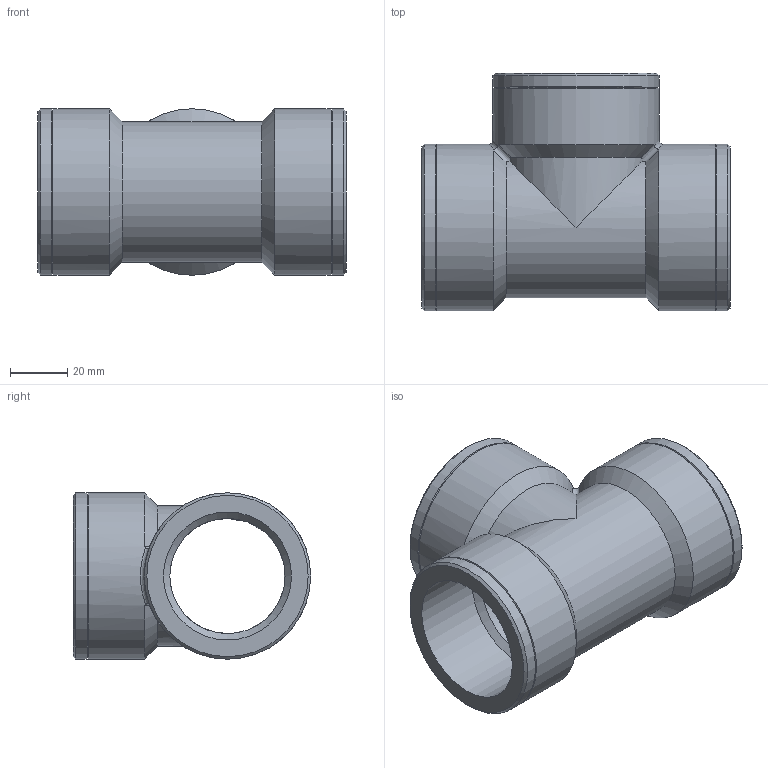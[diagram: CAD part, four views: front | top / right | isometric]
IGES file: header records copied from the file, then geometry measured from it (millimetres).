
Global section: file name: 050407015_0504070150A.ipt; native system: Autodesk Inventor 2015; preprocessor: unknown; author: KIM; date: 20170618.093205; units: millimetre
Bounding box: 108 x 83.15 x 58.3 mm (x, y, z)
Volume: 122437.1 mm3; surface area: 45101.5 mm2
Topology: 1 solids, 1 shells, 39 faces, 108 edges, 70 vertices
Faces by surface type: cone 13, cylinder 9, revolution 8, bspline 6, plane 3
Full cylindrical faces by diameter (mm): 58.298 x6
